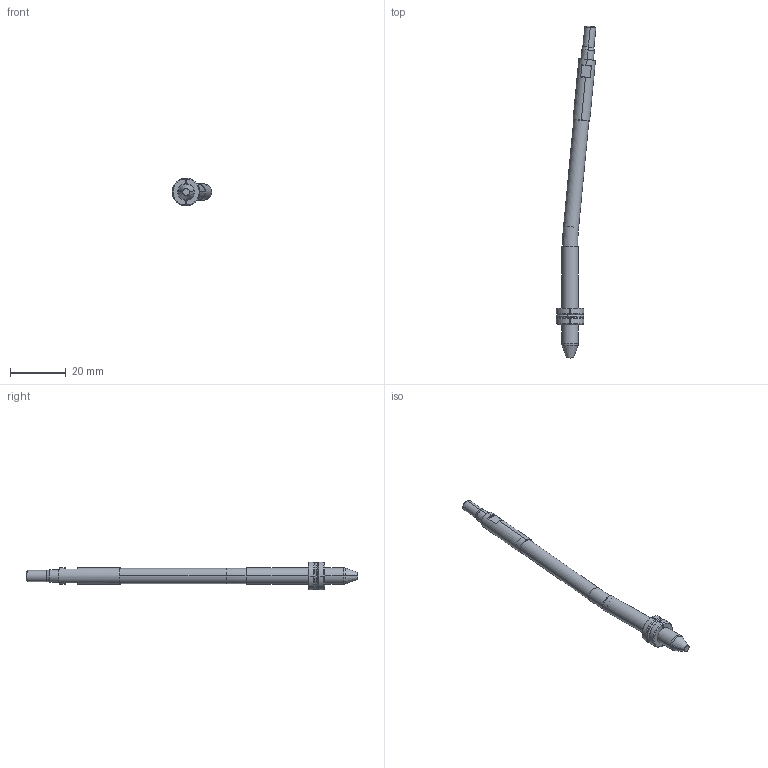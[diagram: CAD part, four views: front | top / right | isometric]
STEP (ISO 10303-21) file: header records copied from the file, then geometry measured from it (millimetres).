
FILE_DESCRIPTION (( 'STEP AP214' ), '1' );
FILE_NAME ('WP060030-EJE 5,5°.STEP', '2021-03-19T15:10:46', ( '' ), ( '' ), 'SwSTEP 2.0', 'SolidWorks 2019', '' );
FILE_SCHEMA (( 'AUTOMOTIVE_DESIGN' ));
Length unit declared in the file: millimetre
Products named in the file (6): WEB-007-9WP060030-F_WP060030-F-ON 5,5ø; WEB-006-9WP060030-6; WEB-008-JUNTA-JT7X1X9; WEB-002-9WP060030-2; WP060030-EJE 5,5°; WEB-001-9WP060030-1
Assembly tree (5 placements, depth 2):
  WP060030-EJE 5,5°
    WEB-001-9WP060030-1
    WEB-007-9WP060030-F_WP060030-F-ON 5,5ø
    WEB-002-9WP060030-2
    WEB-006-9WP060030-6
    WEB-008-JUNTA-JT7X1X9
Bounding box: 14.28 x 119.61 x 9.99 mm (x, y, z)
Volume: 3174 mm3; surface area: 2920.6 mm2
Topology: 6 solids, 6 shells, 112 faces, 262 edges, 164 vertices
Faces by surface type: cylinder 36, cone 28, plane 28, torus 20
Entity records: 3723 total; most frequent: CARTESIAN_POINT 714, DIRECTION 598, ORIENTED_EDGE 524, EDGE_CURVE 262, AXIS2_PLACEMENT_3D 256, VERTEX_POINT 164, CIRCLE 136, EDGE_LOOP 116
